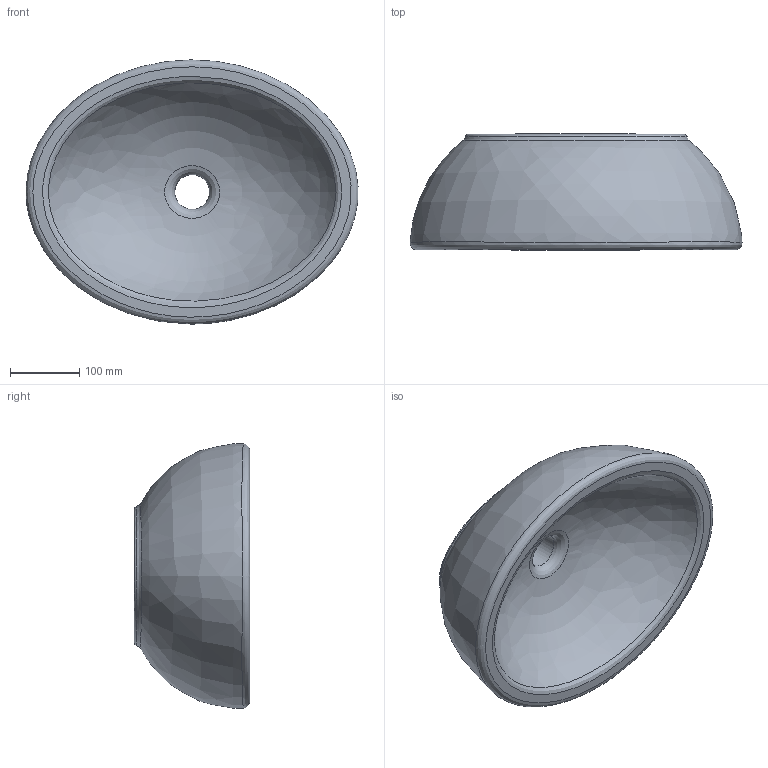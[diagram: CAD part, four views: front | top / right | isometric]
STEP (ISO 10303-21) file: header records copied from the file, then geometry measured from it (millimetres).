
FILE_DESCRIPTION( ( 'Unknown' ), '1' );
FILE_NAME( 'C:/Documents and Settings/s.pallini/Desktop/Scarabeo 17-6/Planet ovale piccolo appoggio.stp', 'Unknown', ( 'Unknown' ), ( 'Unknown' ), 'PSStep 11.0', 'Unknown', ' ' );
FILE_SCHEMA( ( 'AUTOMOTIVE_DESIGN { 1 0 10303 214 1 1 1 1 }' ) );
Length unit declared in the file: millimetre
Products named in the file (1): 1
Bounding box: 479.18 x 167 x 381.31 mm (x, y, z)
Volume: 10892995.7 mm3; surface area: 487267.8 mm2
Topology: 1 solids, 1 shells, 19 faces, 43 edges, 27 vertices
Faces by surface type: bspline 9, plane 5, torus 2, cylinder 2, extrusion 1
Full cylindrical faces by diameter (mm): 50 x1, 70 x1
Entity records: 19535 total; most frequent: CARTESIAN_POINT 19108, ORIENTED_EDGE 40, EDGE_LOOP 36, DIRECTION 35, FACE_OUTER_BOUND 33, EDGE_CURVE 20, STYLED_ITEM 19, PRESENTATION_STYLE_ASSIGNMENT 19
